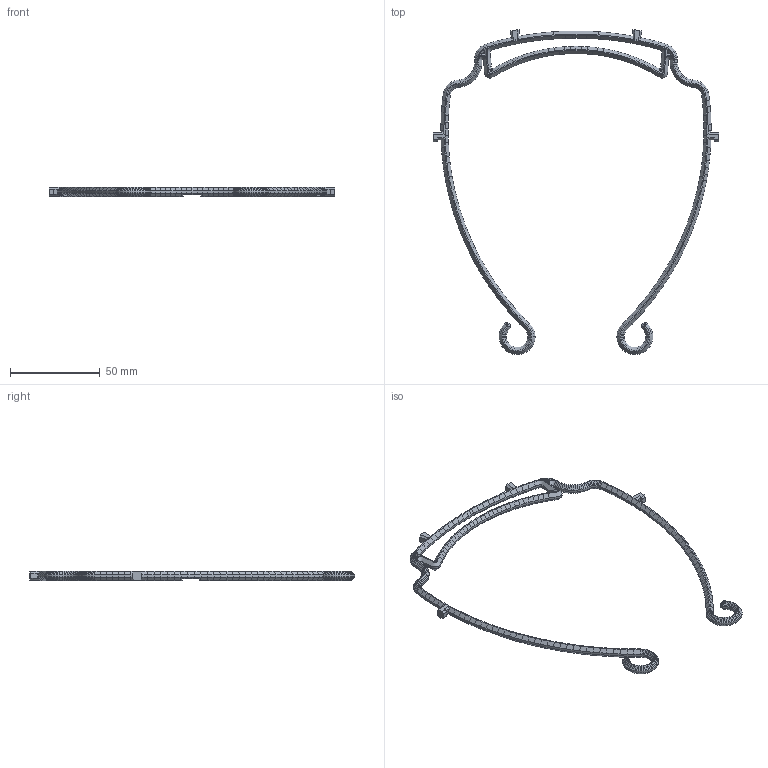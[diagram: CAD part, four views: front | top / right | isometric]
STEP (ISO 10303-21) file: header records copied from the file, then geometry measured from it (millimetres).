
FILE_DESCRIPTION(/* description */ (''),/* implementation_level */ '2;1');
FILE_NAME(/* name */ 'visor_frame_rc1',/* time_stamp */ '2020-03-26T15:16:02+11:00',/* author */ (''),/* organization */ (''),/* preprocessor_version */ 'ST-DEVELOPER v16.5',/* originating_system */ '',/* authorisation */ '');
FILE_SCHEMA (('AUTOMOTIVE_DESIGN'));
Products named in the file (1): Document
Bounding box: 159.07 x 180.96 x 5.3 mm (x, y, z)
Volume: 9905.7 mm3; surface area: 9794.2 mm2
Topology: 1 solids, 1 shells, 2011 faces, 4790 edges, 2784 vertices
Faces by surface type: bspline 1958, plane 53
Entity records: 58490 total; most frequent: CARTESIAN_POINT 34932, ORIENTED_EDGE 9580, EDGE_CURVE 4790, VERTEX_POINT 2784, EDGE_LOOP 2016, ADVANCED_FACE 2011, FACE_OUTER_BOUND 2011, B_SPLINE_CURVE_WITH_KNOTS 176
